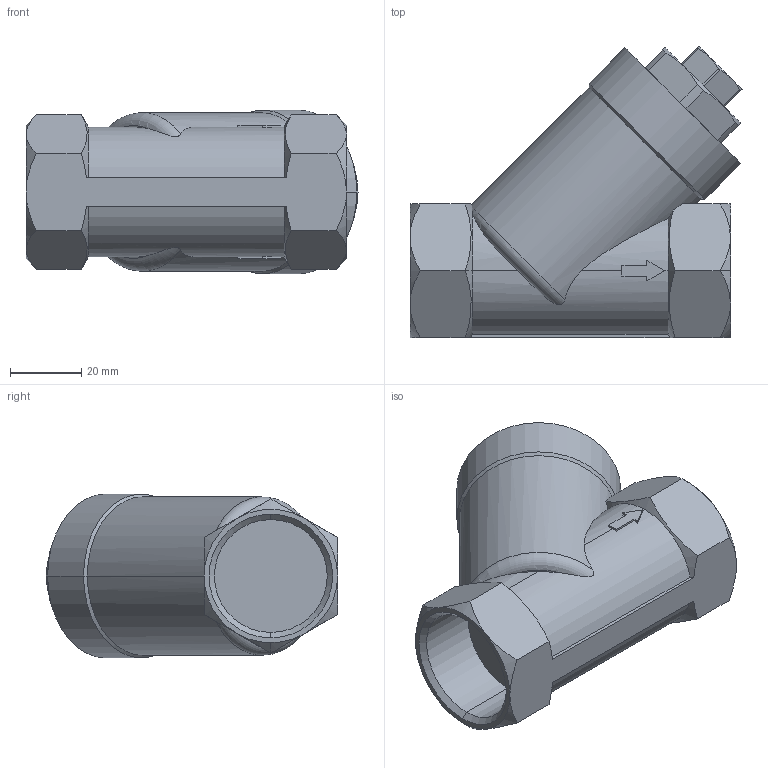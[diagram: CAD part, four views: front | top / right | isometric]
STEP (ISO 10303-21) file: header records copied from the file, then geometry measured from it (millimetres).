
FILE_DESCRIPTION (( 'STEP AP203' ), '1' );
FILE_NAME ('10.000.025.0.STEP', '2018-12-07T12:41:27', ( 'dell2' ), ( 'Microsoft' ), 'SwSTEP 2.0', 'SolidWorks 2017', '' );
FILE_SCHEMA (( 'CONFIG_CONTROL_DESIGN' ));
Length unit declared in the file: millimetre
Products named in the file (1): 10.000.025.0
Bounding box: 93.23 x 81.76 x 46 mm (x, y, z)
Volume: 152777.5 mm3; surface area: 24401.5 mm2
Topology: 1 solids, 1 shells, 114 faces, 282 edges, 175 vertices
Faces by surface type: plane 50, cone 38, cylinder 24, torus 2
Entity records: 3910 total; most frequent: CARTESIAN_POINT 1253, ORIENTED_EDGE 564, DIRECTION 510, EDGE_CURVE 282, AXIS2_PLACEMENT_3D 202, VERTEX_POINT 175, EDGE_LOOP 119, ADVANCED_FACE 114
